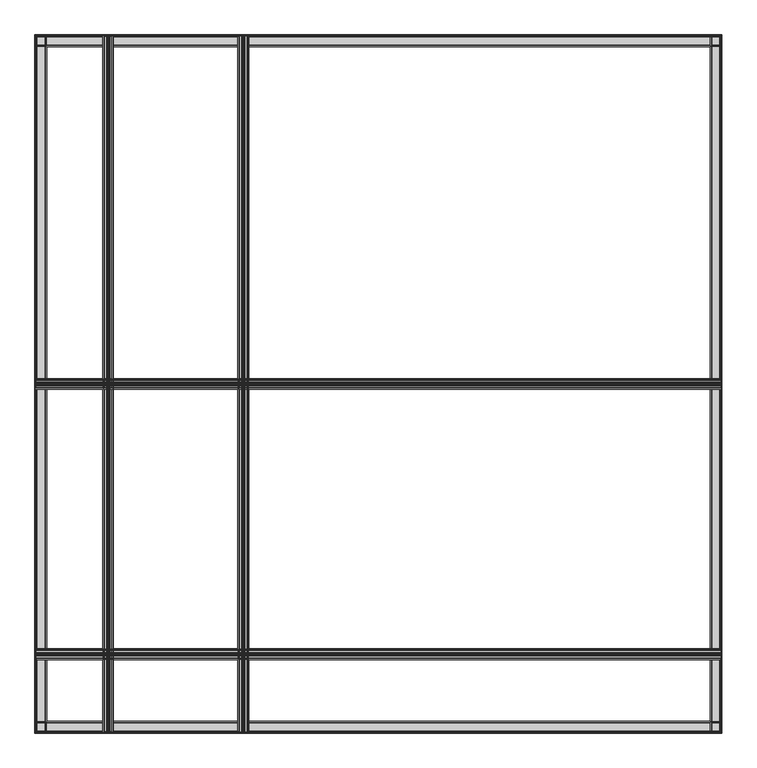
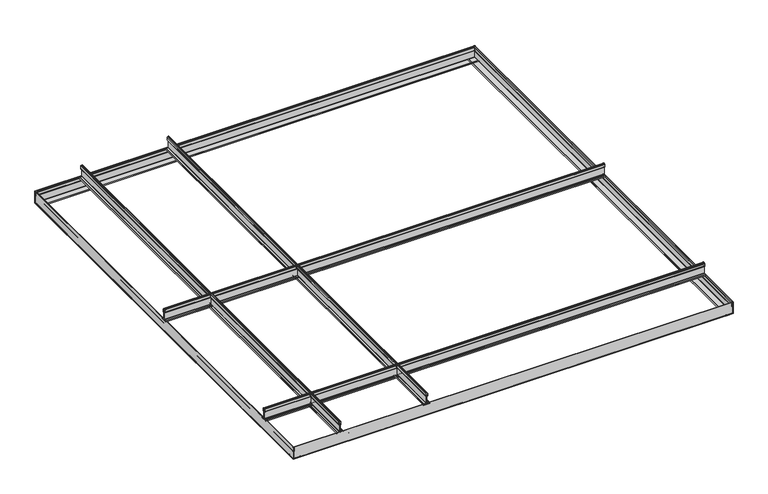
"""IFC4 building model written with IfcOpenShell, lengths in millimetres: proxy geometry, Maxxit_Piramid-Ceiling_rev-01 : Maxxit_Piramid-Ceiling_Duo."""

from ifc_helpers import new_model, si_unit, point, frame, frame_2d, origin, place, context, project, spatial, polyline, circle_curve, trimmed, segment, composite_curve, outline, extrude, source, transform, mapped, element, save


def generic_models_0849f277(model_context):
    return source(origin(), model_context, "Body", "SweptSolid", [
        extrude(outline(composite_curve([segment(polyline([(26.3453115, 470.2521622), (26.0364605, 478.6221882), (27.0486923, 478.6221882), (27.0486923, 470.8587813)]), True, "CONTINUOUS"), segment(trimmed(circle_curve(frame_2d((28.0053766, 470.8587813)), 0.9566843), [point((27.0486923, 470.8587813))], [point((28.0053766, 469.902097))], True, "CARTESIAN"), True, "CONTINUOUS"), segment(polyline([(28.0053766, 469.902097), (53.7729211, 469.902097)]), True, "CONTINUOUS"), segment(trimmed(circle_curve(frame_2d((53.6130577, 470.6289444)), 0.74422), [point((53.7729211, 469.902097))], [point((54.356, 470.5853536))], True, "CARTESIAN"), True, "CONTINUOUS"), segment(trimmed(circle_curve(frame_2d((58.371716, 470.8444703)), 4.0240672), [point((54.356, 470.5853536))], [point((54.4068054, 471.5319295))], False, "CARTESIAN"), True, "CONTINUOUS"), segment(trimmed(circle_curve(frame_2d((55.7865501, 471.174174)), 1.4253717), [point((54.4068054, 471.5319295))], [point((55.7865501, 472.5995457))], False, "CARTESIAN"), True, "CONTINUOUS"), segment(polyline([(55.7865501, 472.5995457), (64.7585942, 472.5995457)]), True, "CONTINUOUS"), segment(trimmed(circle_curve(frame_2d((64.8150812, 470.5494608)), 2.0508629), [point((64.7585942, 472.5995457))], [point((66.2652603, 471.9996399))], False, "CARTESIAN"), True, "CONTINUOUS"), segment(polyline([(66.2652603, 471.9996399), (68.1708325, 470.0940677)]), True, "CONTINUOUS"), segment(trimmed(circle_curve(frame_2d((67.1830148, 469.10625)), 1.3969852), [point((68.1708325, 470.0940677))], [point((68.1708325, 468.1184323))], False, "CARTESIAN"), True, "CONTINUOUS"), segment(polyline([(68.1708325, 468.1184323), (66.2652603, 466.2128601)]), True, "CONTINUOUS"), segment(trimmed(circle_curve(frame_2d((64.8150812, 467.6630392)), 2.0508629), [point((66.2652603, 466.2128601))], [point((64.7585942, 465.6129543))], False, "CARTESIAN"), True, "CONTINUOUS"), segment(polyline([(64.7585942, 465.6129543), (55.7865501, 465.6129543)]), True, "CONTINUOUS"), segment(trimmed(circle_curve(frame_2d((55.7865501, 467.038326)), 1.4253717), [point((55.7865501, 465.6129543))], [point((54.4068054, 466.6805705))], False, "CARTESIAN"), True, "CONTINUOUS"), segment(trimmed(circle_curve(frame_2d((58.371716, 467.3680297)), 4.0240672), [point((54.4068054, 466.6805705))], [point((54.356, 467.6271464))], False, "CARTESIAN"), True, "CONTINUOUS"), segment(trimmed(circle_curve(frame_2d((53.6130577, 467.5835556)), 0.74422), [point((54.356, 467.6271464))], [point((53.7436541, 468.3162274))], True, "CARTESIAN"), True, "CONTINUOUS"), segment(polyline([(53.7436541, 468.3162274), (28.0053766, 468.3162274)]), True, "CONTINUOUS"), segment(trimmed(circle_curve(frame_2d((28.0053766, 467.3595431)), 0.9566843), [point((28.0053766, 468.3162274))], [point((27.0486923, 467.3595431))], True, "CARTESIAN"), True, "CONTINUOUS"), segment(polyline([(27.0486923, 467.3595431), (27.0486923, 458.7632271), (26.0290179, 458.7632271), (26.3453115, 467.9661622)]), True, "CONTINUOUS"), segment(trimmed(circle_curve(frame_2d((27.4883115, 467.9661622)), 1.143), [point((26.3453115, 467.9661622))], [point((27.4883115, 469.1091622))], False, "CARTESIAN"), True, "CONTINUOUS"), segment(trimmed(circle_curve(frame_2d((27.4883115, 470.2521622)), 1.143), [point((27.4883115, 469.1091622))], [point((26.3453115, 470.2521622))], False, "CARTESIAN"), True, "CONTINUOUS")], self_intersect=False), holes=[composite_curve([segment(trimmed(circle_curve(frame_2d((54.058724, 468.0366423)), 1.0922), [point((54.2797221, 469.10625))], [point((55.150924, 468.0366423))], False, "CARTESIAN"), True, "CONTINUOUS"), segment(polyline([(55.150924, 468.0366423), (55.150924, 467.0462215)]), True, "CONTINUOUS"), segment(trimmed(circle_curve(frame_2d((55.7859245, 467.0462215)), 0.6350005), [point((55.150924, 467.0462215))], [point((55.7859245, 466.411221))], True, "CARTESIAN"), True, "CONTINUOUS"), segment(polyline([(55.7859245, 466.411221), (64.7585942, 466.411221)]), True, "CONTINUOUS"), segment(trimmed(circle_curve(frame_2d((64.7240599, 467.9140641)), 1.5032399), [point((64.7585942, 466.411221))], [point((65.7039943, 466.7741261))], True, "CARTESIAN"), True, "CONTINUOUS"), segment(polyline([(65.7039943, 466.7741261), (67.6095665, 468.6796983)]), True, "CONTINUOUS"), segment(trimmed(circle_curve(frame_2d((67.1830148, 469.10625)), 0.6032352), [point((67.6095665, 468.6796983))], [point((67.6095665, 469.5328017))], True, "CARTESIAN"), True, "CONTINUOUS"), segment(polyline([(67.6095665, 469.5328017), (65.7039943, 471.4383739)]), True, "CONTINUOUS"), segment(trimmed(circle_curve(frame_2d((64.7240599, 470.2984359)), 1.5032399), [point((65.7039943, 471.4383739))], [point((64.7585942, 471.801279))], True, "CARTESIAN"), True, "CONTINUOUS"), segment(polyline([(64.7585942, 471.801279), (55.7859245, 471.801279)]), True, "CONTINUOUS"), segment(trimmed(circle_curve(frame_2d((55.7859245, 471.1662785)), 0.6350005), [point((55.7859245, 471.801279))], [point((55.150924, 471.1662785))], True, "CARTESIAN"), True, "CONTINUOUS"), segment(polyline([(55.150924, 471.1662785), (55.150924, 470.1758577)]), True, "CONTINUOUS"), segment(trimmed(circle_curve(frame_2d((54.058724, 470.1758577)), 1.0922), [point((55.150924, 470.1758577))], [point((54.2797221, 469.10625))], False, "CARTESIAN"), True, "CONTINUOUS")], self_intersect=False)]), frame((0.0, -0.79375, 0.0), z_axis=(0.0, 1.0, 0.0), x_axis=(0.0, 0.0, 1.0)), (0.0, 0.0, 1.0), 1574.8),
        extrude(outline(composite_curve([segment(trimmed(circle_curve(frame_2d((26.8823557, 479.5419885)), 1.4823557), [point((25.4, 479.5419885))], [point((28.3175237, 479.1709475))], False, "CARTESIAN"), True, "CONTINUOUS"), segment(polyline([(28.3175237, 479.1709475), (27.887022, 477.6447705), (27.123083, 477.8602613), (27.550773, 479.3764703)]), True, "CONTINUOUS"), segment(trimmed(circle_curve(frame_2d((26.8823557, 479.5419885)), 0.6886057), [point((27.550773, 479.3764703))], [point((26.19375, 479.5419885))], True, "CARTESIAN"), True, "CONTINUOUS"), segment(polyline([(26.19375, 479.5419885), (26.19375, 458.6705115)]), True, "CONTINUOUS"), segment(trimmed(circle_curve(frame_2d((26.8823557, 458.6705115)), 0.6886057), [point((26.19375, 458.6705115))], [point((27.550773, 458.8360297))], True, "CARTESIAN"), True, "CONTINUOUS"), segment(polyline([(27.550773, 458.8360297), (27.123083, 460.3522387), (27.887022, 460.5677295), (28.3175237, 459.0415525)]), True, "CONTINUOUS"), segment(trimmed(circle_curve(frame_2d((26.8823557, 458.6705115)), 1.4823557), [point((28.3175237, 459.0415525))], [point((25.4, 458.6705115))], False, "CARTESIAN"), True, "CONTINUOUS"), segment(polyline([(25.4, 458.6705115), (25.4, 479.5419885)]), True, "CONTINUOUS")], self_intersect=False)), frame((0.0, -0.79375, 0.0), z_axis=(0.0, 1.0, 0.0), x_axis=(0.0, 0.0, 1.0)), (0.0, 0.0, 1.0), 1574.8),
        extrude(outline(composite_curve([segment(trimmed(circle_curve(frame_2d((787.7521622, 27.4883115)), 1.143), [point((787.7521622, 26.3453115))], [point((786.6091622, 27.4883115))], False, "CARTESIAN"), True, "CONTINUOUS"), segment(trimmed(circle_curve(frame_2d((785.4661622, 27.4883115)), 1.143), [point((786.6091622, 27.4883115))], [point((785.4661622, 26.3453115))], False, "CARTESIAN"), True, "CONTINUOUS"), segment(polyline([(785.4661622, 26.3453115), (776.2632271, 26.0290179), (776.2632271, 27.0486923), (784.8595431, 27.0486923)]), True, "CONTINUOUS"), segment(trimmed(circle_curve(frame_2d((784.8595431, 28.0053766)), 0.9566843), [point((784.8595431, 27.0486923))], [point((785.8162274, 28.0053766))], True, "CARTESIAN"), True, "CONTINUOUS"), segment(polyline([(785.8162274, 28.0053766), (785.8162274, 53.7436541)]), True, "CONTINUOUS"), segment(trimmed(circle_curve(frame_2d((785.0835556, 53.6130577)), 0.74422), [point((785.8162274, 53.7436541))], [point((785.1271464, 54.356))], True, "CARTESIAN"), True, "CONTINUOUS"), segment(trimmed(circle_curve(frame_2d((784.8680297, 58.371716)), 4.0240672), [point((785.1271464, 54.356))], [point((784.1805705, 54.4068054))], False, "CARTESIAN"), True, "CONTINUOUS"), segment(trimmed(circle_curve(frame_2d((784.538326, 55.7865501)), 1.4253717), [point((784.1805705, 54.4068054))], [point((783.1129543, 55.7865501))], False, "CARTESIAN"), True, "CONTINUOUS"), segment(polyline([(783.1129543, 55.7865501), (783.1129543, 64.7585942)]), True, "CONTINUOUS"), segment(trimmed(circle_curve(frame_2d((785.1630392, 64.8150812)), 2.0508629), [point((783.1129543, 64.7585942))], [point((783.7128601, 66.2652603))], False, "CARTESIAN"), True, "CONTINUOUS"), segment(polyline([(783.7128601, 66.2652603), (785.6184323, 68.1708325)]), True, "CONTINUOUS"), segment(trimmed(circle_curve(frame_2d((786.60625, 67.1830148)), 1.3969852), [point((785.6184323, 68.1708325))], [point((787.5940677, 68.1708325))], False, "CARTESIAN"), True, "CONTINUOUS"), segment(polyline([(787.5940677, 68.1708325), (789.4996399, 66.2652603)]), True, "CONTINUOUS"), segment(trimmed(circle_curve(frame_2d((788.0494608, 64.8150812)), 2.0508629), [point((789.4996399, 66.2652603))], [point((790.0995457, 64.7585942))], False, "CARTESIAN"), True, "CONTINUOUS"), segment(polyline([(790.0995457, 64.7585942), (790.0995457, 55.7865501)]), True, "CONTINUOUS"), segment(trimmed(circle_curve(frame_2d((788.674174, 55.7865501)), 1.4253717), [point((790.0995457, 55.7865501))], [point((789.0319295, 54.4068054))], False, "CARTESIAN"), True, "CONTINUOUS"), segment(trimmed(circle_curve(frame_2d((788.3444703, 58.371716)), 4.0240672), [point((789.0319295, 54.4068054))], [point((788.0853536, 54.356))], False, "CARTESIAN"), True, "CONTINUOUS"), segment(trimmed(circle_curve(frame_2d((788.1289444, 53.6130577)), 0.74422), [point((788.0853536, 54.356))], [point((787.402097, 53.7729211))], True, "CARTESIAN"), True, "CONTINUOUS"), segment(polyline([(787.402097, 53.7729211), (787.402097, 28.0053766)]), True, "CONTINUOUS"), segment(trimmed(circle_curve(frame_2d((788.3587813, 28.0053766)), 0.9566843), [point((787.402097, 28.0053766))], [point((788.3587813, 27.0486923))], True, "CARTESIAN"), True, "CONTINUOUS"), segment(polyline([(788.3587813, 27.0486923), (796.1221882, 27.0486923), (796.1221882, 26.0364605), (787.7521622, 26.3453115)]), True, "CONTINUOUS")], self_intersect=False), holes=[composite_curve([segment(trimmed(circle_curve(frame_2d((787.6758577, 54.058724)), 1.0922), [point((786.60625, 54.2797221))], [point((787.6758577, 55.150924))], False, "CARTESIAN"), True, "CONTINUOUS"), segment(polyline([(787.6758577, 55.150924), (788.6662785, 55.150924)]), True, "CONTINUOUS"), segment(trimmed(circle_curve(frame_2d((788.6662785, 55.7859245)), 0.6350005), [point((788.6662785, 55.150924))], [point((789.301279, 55.7859245))], True, "CARTESIAN"), True, "CONTINUOUS"), segment(polyline([(789.301279, 55.7859245), (789.301279, 64.7585942)]), True, "CONTINUOUS"), segment(trimmed(circle_curve(frame_2d((787.7984359, 64.7240599)), 1.5032399), [point((789.301279, 64.7585942))], [point((788.9383739, 65.7039943))], True, "CARTESIAN"), True, "CONTINUOUS"), segment(polyline([(788.9383739, 65.7039943), (787.0328017, 67.6095665)]), True, "CONTINUOUS"), segment(trimmed(circle_curve(frame_2d((786.60625, 67.1830148)), 0.6032352), [point((787.0328017, 67.6095665))], [point((786.1796983, 67.6095665))], True, "CARTESIAN"), True, "CONTINUOUS"), segment(polyline([(786.1796983, 67.6095665), (784.2741261, 65.7039943)]), True, "CONTINUOUS"), segment(trimmed(circle_curve(frame_2d((785.4140641, 64.7240599)), 1.5032399), [point((784.2741261, 65.7039943))], [point((783.911221, 64.7585942))], True, "CARTESIAN"), True, "CONTINUOUS"), segment(polyline([(783.911221, 64.7585942), (783.911221, 55.7859245)]), True, "CONTINUOUS"), segment(trimmed(circle_curve(frame_2d((784.5462215, 55.7859245)), 0.6350005), [point((783.911221, 55.7859245))], [point((784.5462215, 55.150924))], True, "CARTESIAN"), True, "CONTINUOUS"), segment(polyline([(784.5462215, 55.150924), (785.5366423, 55.150924)]), True, "CONTINUOUS"), segment(trimmed(circle_curve(frame_2d((785.5366423, 54.058724)), 1.0922), [point((785.5366423, 55.150924))], [point((786.60625, 54.2797221))], False, "CARTESIAN"), True, "CONTINUOUS")], self_intersect=False)]), frame((-0.79375, 0.0, 0.0), z_axis=(1.0, 0.0, 0.0), x_axis=(0.0, 1.0, 0.0)), (0.0, 0.0, 1.0), 1549.4),
        extrude(outline(composite_curve([segment(polyline([(797.0419885, 25.4), (776.1705115, 25.4)]), True, "CONTINUOUS"), segment(trimmed(circle_curve(frame_2d((776.1705115, 26.8823557)), 1.4823557), [point((776.1705115, 25.4))], [point((776.5415525, 28.3175237))], False, "CARTESIAN"), True, "CONTINUOUS"), segment(polyline([(776.5415525, 28.3175237), (778.0677295, 27.887022), (777.8522387, 27.123083), (776.3360297, 27.550773)]), True, "CONTINUOUS"), segment(trimmed(circle_curve(frame_2d((776.1705115, 26.8823557)), 0.6886057), [point((776.3360297, 27.550773))], [point((776.1705115, 26.19375))], True, "CARTESIAN"), True, "CONTINUOUS"), segment(polyline([(776.1705115, 26.19375), (797.0419885, 26.19375)]), True, "CONTINUOUS"), segment(trimmed(circle_curve(frame_2d((797.0419885, 26.8823557)), 0.6886057), [point((797.0419885, 26.19375))], [point((796.8764703, 27.550773))], True, "CARTESIAN"), True, "CONTINUOUS"), segment(polyline([(796.8764703, 27.550773), (795.3602613, 27.123083), (795.1447705, 27.887022), (796.6709475, 28.3175237)]), True, "CONTINUOUS"), segment(trimmed(circle_curve(frame_2d((797.0419885, 26.8823557)), 1.4823557), [point((796.6709475, 28.3175237))], [point((797.0419885, 25.4))], False, "CARTESIAN"), True, "CONTINUOUS")], self_intersect=False)), frame((-0.79375, 0.0, 0.0), z_axis=(1.0, 0.0, 0.0), x_axis=(0.0, 1.0, 0.0)), (0.0, 0.0, 1.0), 1549.4),
        extrude(outline(composite_curve([segment(trimmed(circle_curve(frame_2d((178.1521622, 27.4883115)), 1.143), [point((178.1521622, 26.3453115))], [point((177.0091622, 27.4883115))], False, "CARTESIAN"), True, "CONTINUOUS"), segment(trimmed(circle_curve(frame_2d((175.8661622, 27.4883115)), 1.143), [point((177.0091622, 27.4883115))], [point((175.8661622, 26.3453115))], False, "CARTESIAN"), True, "CONTINUOUS"), segment(polyline([(175.8661622, 26.3453115), (166.6632271, 26.0290179), (166.6632271, 27.0486923), (175.2595431, 27.0486923)]), True, "CONTINUOUS"), segment(trimmed(circle_curve(frame_2d((175.2595431, 28.0053766)), 0.9566843), [point((175.2595431, 27.0486923))], [point((176.2162274, 28.0053766))], True, "CARTESIAN"), True, "CONTINUOUS"), segment(polyline([(176.2162274, 28.0053766), (176.2162274, 53.7436541)]), True, "CONTINUOUS"), segment(trimmed(circle_curve(frame_2d((175.4835556, 53.6130577)), 0.74422), [point((176.2162274, 53.7436541))], [point((175.5271464, 54.356))], True, "CARTESIAN"), True, "CONTINUOUS"), segment(trimmed(circle_curve(frame_2d((175.2680297, 58.371716)), 4.0240672), [point((175.5271464, 54.356))], [point((174.5805705, 54.4068054))], False, "CARTESIAN"), True, "CONTINUOUS"), segment(trimmed(circle_curve(frame_2d((174.938326, 55.7865501)), 1.4253717), [point((174.5805705, 54.4068054))], [point((173.5129543, 55.7865501))], False, "CARTESIAN"), True, "CONTINUOUS"), segment(polyline([(173.5129543, 55.7865501), (173.5129543, 64.7585942)]), True, "CONTINUOUS"), segment(trimmed(circle_curve(frame_2d((175.5630392, 64.8150812)), 2.0508629), [point((173.5129543, 64.7585942))], [point((174.1128601, 66.2652603))], False, "CARTESIAN"), True, "CONTINUOUS"), segment(polyline([(174.1128601, 66.2652603), (176.0184323, 68.1708325)]), True, "CONTINUOUS"), segment(trimmed(circle_curve(frame_2d((177.00625, 67.1830148)), 1.3969852), [point((176.0184323, 68.1708325))], [point((177.9940677, 68.1708325))], False, "CARTESIAN"), True, "CONTINUOUS"), segment(polyline([(177.9940677, 68.1708325), (179.8996399, 66.2652603)]), True, "CONTINUOUS"), segment(trimmed(circle_curve(frame_2d((178.4494608, 64.8150812)), 2.0508629), [point((179.8996399, 66.2652603))], [point((180.4995457, 64.7585942))], False, "CARTESIAN"), True, "CONTINUOUS"), segment(polyline([(180.4995457, 64.7585942), (180.4995457, 55.7865501)]), True, "CONTINUOUS"), segment(trimmed(circle_curve(frame_2d((179.074174, 55.7865501)), 1.4253717), [point((180.4995457, 55.7865501))], [point((179.4319295, 54.4068054))], False, "CARTESIAN"), True, "CONTINUOUS"), segment(trimmed(circle_curve(frame_2d((178.7444703, 58.371716)), 4.0240672), [point((179.4319295, 54.4068054))], [point((178.4853536, 54.356))], False, "CARTESIAN"), True, "CONTINUOUS"), segment(trimmed(circle_curve(frame_2d((178.5289444, 53.6130577)), 0.74422), [point((178.4853536, 54.356))], [point((177.802097, 53.7729211))], True, "CARTESIAN"), True, "CONTINUOUS"), segment(polyline([(177.802097, 53.7729211), (177.802097, 28.0053766)]), True, "CONTINUOUS"), segment(trimmed(circle_curve(frame_2d((178.7587813, 28.0053766)), 0.9566843), [point((177.802097, 28.0053766))], [point((178.7587813, 27.0486923))], True, "CARTESIAN"), True, "CONTINUOUS"), segment(polyline([(178.7587813, 27.0486923), (186.5221882, 27.0486923), (186.5221882, 26.0364605), (178.1521622, 26.3453115)]), True, "CONTINUOUS")], self_intersect=False), holes=[composite_curve([segment(trimmed(circle_curve(frame_2d((178.0758577, 54.058724)), 1.0922), [point((177.00625, 54.2797221))], [point((178.0758577, 55.150924))], False, "CARTESIAN"), True, "CONTINUOUS"), segment(polyline([(178.0758577, 55.150924), (179.0662785, 55.150924)]), True, "CONTINUOUS"), segment(trimmed(circle_curve(frame_2d((179.0662785, 55.7859245)), 0.6350005), [point((179.0662785, 55.150924))], [point((179.701279, 55.7859245))], True, "CARTESIAN"), True, "CONTINUOUS"), segment(polyline([(179.701279, 55.7859245), (179.701279, 64.7585942)]), True, "CONTINUOUS"), segment(trimmed(circle_curve(frame_2d((178.1984359, 64.7240599)), 1.5032399), [point((179.701279, 64.7585942))], [point((179.3383739, 65.7039943))], True, "CARTESIAN"), True, "CONTINUOUS"), segment(polyline([(179.3383739, 65.7039943), (177.4328017, 67.6095665)]), True, "CONTINUOUS"), segment(trimmed(circle_curve(frame_2d((177.00625, 67.1830148)), 0.6032352), [point((177.4328017, 67.6095665))], [point((176.5796983, 67.6095665))], True, "CARTESIAN"), True, "CONTINUOUS"), segment(polyline([(176.5796983, 67.6095665), (174.6741261, 65.7039943)]), True, "CONTINUOUS"), segment(trimmed(circle_curve(frame_2d((175.8140641, 64.7240599)), 1.5032399), [point((174.6741261, 65.7039943))], [point((174.311221, 64.7585942))], True, "CARTESIAN"), True, "CONTINUOUS"), segment(polyline([(174.311221, 64.7585942), (174.311221, 55.7859245)]), True, "CONTINUOUS"), segment(trimmed(circle_curve(frame_2d((174.9462215, 55.7859245)), 0.6350005), [point((174.311221, 55.7859245))], [point((174.9462215, 55.150924))], True, "CARTESIAN"), True, "CONTINUOUS"), segment(polyline([(174.9462215, 55.150924), (175.9366423, 55.150924)]), True, "CONTINUOUS"), segment(trimmed(circle_curve(frame_2d((175.9366423, 54.058724)), 1.0922), [point((175.9366423, 55.150924))], [point((177.00625, 54.2797221))], False, "CARTESIAN"), True, "CONTINUOUS")], self_intersect=False)]), frame((-0.79375, 0.0, 0.0), z_axis=(1.0, 0.0, 0.0), x_axis=(0.0, 1.0, 0.0)), (0.0, 0.0, 1.0), 1549.4),
        extrude(outline(composite_curve([segment(polyline([(187.4419885, 25.4), (166.5705115, 25.4)]), True, "CONTINUOUS"), segment(trimmed(circle_curve(frame_2d((166.5705115, 26.8823557)), 1.4823557), [point((166.5705115, 25.4))], [point((166.9415525, 28.3175237))], False, "CARTESIAN"), True, "CONTINUOUS"), segment(polyline([(166.9415525, 28.3175237), (168.4677295, 27.887022), (168.2522387, 27.123083), (166.7360297, 27.550773)]), True, "CONTINUOUS"), segment(trimmed(circle_curve(frame_2d((166.5705115, 26.8823557)), 0.6886057), [point((166.7360297, 27.550773))], [point((166.5705115, 26.19375))], True, "CARTESIAN"), True, "CONTINUOUS"), segment(polyline([(166.5705115, 26.19375), (187.4419885, 26.19375)]), True, "CONTINUOUS"), segment(trimmed(circle_curve(frame_2d((187.4419885, 26.8823557)), 0.6886057), [point((187.4419885, 26.19375))], [point((187.2764703, 27.550773))], True, "CARTESIAN"), True, "CONTINUOUS"), segment(polyline([(187.2764703, 27.550773), (185.7602613, 27.123083), (185.5447705, 27.887022), (187.0709475, 28.3175237)]), True, "CONTINUOUS"), segment(trimmed(circle_curve(frame_2d((187.4419885, 26.8823557)), 1.4823557), [point((187.0709475, 28.3175237))], [point((187.4419885, 25.4))], False, "CARTESIAN"), True, "CONTINUOUS")], self_intersect=False)), frame((-0.79375, 0.0, 0.0), z_axis=(1.0, 0.0, 0.0), x_axis=(0.0, 1.0, 0.0)), (0.0, 0.0, 1.0), 1549.4),
        extrude(outline(composite_curve([segment(polyline([(-14.9820313, 1548.5762526), (-14.1882813, 1548.5762526), (-14.1882813, 1523.8809145)]), True, "CONTINUOUS"), segment(trimmed(circle_curve(frame_2d((-13.4996755, 1523.8809145)), 0.6886057), [point((-14.1882813, 1523.8809145))], [point((-12.8312583, 1524.0464327))], True, "CARTESIAN"), True, "CONTINUOUS"), segment(polyline([(-12.8312583, 1524.0464327), (-13.2589482, 1525.5626417), (-12.4950092, 1525.7781325), (-12.0645075, 1524.2519555)]), True, "CONTINUOUS"), segment(trimmed(circle_curve(frame_2d((-13.4996755, 1523.8809145)), 1.4823557), [point((-12.0645075, 1524.2519555))], [point((-14.9820313, 1523.8809145))], False, "CARTESIAN"), True, "CONTINUOUS"), segment(polyline([(-14.9820313, 1523.8809145), (-14.9820313, 1548.5762526)]), True, "CONTINUOUS")], self_intersect=False)), frame((0.0, -0.79375, 0.0), z_axis=(0.0, 1.0, 0.0), x_axis=(0.0, 0.0, 1.0)), (0.0, 0.0, 1.0), 1574.8),
        extrude(outline(composite_curve([segment(trimmed(circle_curve(frame_2d((26.9918874, 1547.810403)), 1.3969852), [point((28.1400142, 1548.60625))], [point((27.9797051, 1546.8225853))], False, "CARTESIAN"), True, "CONTINUOUS"), segment(polyline([(27.9797051, 1546.8225853), (26.0741329, 1544.9170131)]), True, "CONTINUOUS"), segment(trimmed(circle_curve(frame_2d((24.6239538, 1546.3671922)), 2.0508629), [point((26.0741329, 1544.9170131))], [point((24.5674668, 1544.3171073))], False, "CARTESIAN"), True, "CONTINUOUS"), segment(polyline([(24.5674668, 1544.3171073), (14.4241684, 1544.3171073)]), True, "CONTINUOUS"), segment(trimmed(circle_curve(frame_2d((14.4241684, 1545.742479)), 1.4253717), [point((14.4241684, 1544.3171073))], [point((13.0444237, 1545.3847235))], False, "CARTESIAN"), True, "CONTINUOUS"), segment(trimmed(circle_curve(frame_2d((17.0093343, 1546.0721827)), 4.0240672), [point((13.0444237, 1545.3847235))], [point((12.9936183, 1546.3312994))], False, "CARTESIAN"), True, "CONTINUOUS"), segment(trimmed(circle_curve(frame_2d((12.250676, 1546.2877086)), 0.74422), [point((12.9936183, 1546.3312994))], [point((12.3812724, 1547.0203804))], True, "CARTESIAN"), True, "CONTINUOUS"), segment(polyline([(12.3812724, 1547.0203804), (-12.3766547, 1547.0203804)]), True, "CONTINUOUS"), segment(trimmed(circle_curve(frame_2d((-12.3766547, 1546.0636961)), 0.9566843), [point((-12.3766547, 1547.0203804))], [point((-13.333339, 1546.0636961))], True, "CARTESIAN"), True, "CONTINUOUS"), segment(polyline([(-13.333339, 1546.0636961), (-13.333339, 1523.9736301), (-14.3530133, 1523.9736301), (-14.0306827, 1547.3459287)]), True, "CONTINUOUS"), segment(trimmed(circle_curve(frame_2d((-12.8937197, 1547.46325)), 1.143), [point((-14.0306827, 1547.3459287))], [point((-12.8937197, 1548.60625))], False, "CARTESIAN"), True, "CONTINUOUS"), segment(polyline([(-12.8937197, 1548.60625), (28.1400142, 1548.60625)]), True, "CONTINUOUS")], self_intersect=False), holes=[composite_curve([segment(trimmed(circle_curve(frame_2d((14.4235428, 1547.1729828)), 0.6350005), [point((14.4235428, 1547.8079833))], [point((13.7885423, 1547.1729828))], True, "CARTESIAN"), True, "CONTINUOUS"), segment(polyline([(13.7885423, 1547.1729828), (13.7885423, 1545.7503744)]), True, "CONTINUOUS"), segment(trimmed(circle_curve(frame_2d((14.4235428, 1545.7503744)), 0.6350005), [point((13.7885423, 1545.7503744))], [point((14.4235428, 1545.115374))], True, "CARTESIAN"), True, "CONTINUOUS"), segment(polyline([(14.4235428, 1545.115374), (24.5674668, 1545.115374)]), True, "CONTINUOUS"), segment(trimmed(circle_curve(frame_2d((24.5329325, 1546.6182171)), 1.5032399), [point((24.5674668, 1545.115374))], [point((25.5128669, 1545.4782791))], True, "CARTESIAN"), True, "CONTINUOUS"), segment(polyline([(25.5128669, 1545.4782791), (27.8425711, 1547.8079833), (14.4235428, 1547.8079833)]), True, "CONTINUOUS")], self_intersect=False)]), frame((0.0, -0.79375, 0.0), z_axis=(0.0, 1.0, 0.0), x_axis=(0.0, 0.0, 1.0)), (0.0, 0.0, 1.0), 1574.8),
        extrude(outline(composite_curve([segment(polyline([(1573.9762526, -14.9820313), (1549.2809145, -14.9820313)]), True, "CONTINUOUS"), segment(trimmed(circle_curve(frame_2d((1549.2809145, -13.4996755)), 1.4823557), [point((1549.2809145, -14.9820313))], [point((1549.6519555, -12.0645075))], False, "CARTESIAN"), True, "CONTINUOUS"), segment(polyline([(1549.6519555, -12.0645075), (1551.1781325, -12.4950092), (1550.9626417, -13.2589482), (1549.4464327, -12.8312583)]), True, "CONTINUOUS"), segment(trimmed(circle_curve(frame_2d((1549.2809145, -13.4996755)), 0.6886057), [point((1549.4464327, -12.8312583))], [point((1549.2809145, -14.1882813))], True, "CARTESIAN"), True, "CONTINUOUS"), segment(polyline([(1549.2809145, -14.1882813), (1573.9762526, -14.1882813), (1573.9762526, -14.9820313)]), True, "CONTINUOUS")], self_intersect=False)), frame((-0.79375, 0.0, 0.0), z_axis=(1.0, 0.0, 0.0), x_axis=(0.0, 1.0, 0.0)), (0.0, 0.0, 1.0), 1549.4),
        extrude(outline(composite_curve([segment(polyline([(1574.00625, 28.1400142), (1574.00625, -12.8937197)]), True, "CONTINUOUS"), segment(trimmed(circle_curve(frame_2d((1572.86325, -12.8937197)), 1.143), [point((1574.00625, -12.8937197))], [point((1572.7459287, -14.0306827))], False, "CARTESIAN"), True, "CONTINUOUS"), segment(polyline([(1572.7459287, -14.0306827), (1549.3736301, -14.3530133), (1549.3736301, -13.333339), (1571.4636961, -13.333339)]), True, "CONTINUOUS"), segment(trimmed(circle_curve(frame_2d((1571.4636961, -12.3766547)), 0.9566843), [point((1571.4636961, -13.333339))], [point((1572.4203804, -12.3766547))], True, "CARTESIAN"), True, "CONTINUOUS"), segment(polyline([(1572.4203804, -12.3766547), (1572.4203804, 12.3812724)]), True, "CONTINUOUS"), segment(trimmed(circle_curve(frame_2d((1571.6877086, 12.250676)), 0.74422), [point((1572.4203804, 12.3812724))], [point((1571.7312994, 12.9936183))], True, "CARTESIAN"), True, "CONTINUOUS"), segment(trimmed(circle_curve(frame_2d((1571.4721827, 17.0093343)), 4.0240672), [point((1571.7312994, 12.9936183))], [point((1570.7847235, 13.0444237))], False, "CARTESIAN"), True, "CONTINUOUS"), segment(trimmed(circle_curve(frame_2d((1571.142479, 14.4241684)), 1.4253717), [point((1570.7847235, 13.0444237))], [point((1569.7171073, 14.4241684))], False, "CARTESIAN"), True, "CONTINUOUS"), segment(polyline([(1569.7171073, 14.4241684), (1569.7171073, 24.5674668)]), True, "CONTINUOUS"), segment(trimmed(circle_curve(frame_2d((1571.7671922, 24.6239538)), 2.0508629), [point((1569.7171073, 24.5674668))], [point((1570.3170131, 26.0741329))], False, "CARTESIAN"), True, "CONTINUOUS"), segment(polyline([(1570.3170131, 26.0741329), (1572.2225853, 27.9797051)]), True, "CONTINUOUS"), segment(trimmed(circle_curve(frame_2d((1573.210403, 26.9918874)), 1.3969852), [point((1572.2225853, 27.9797051))], [point((1574.00625, 28.1400142))], False, "CARTESIAN"), True, "CONTINUOUS")], self_intersect=False), holes=[composite_curve([segment(polyline([(1573.2079833, 14.4235428), (1573.2079833, 27.8425711), (1570.8782791, 25.5128669)]), True, "CONTINUOUS"), segment(trimmed(circle_curve(frame_2d((1572.0182171, 24.5329325)), 1.5032399), [point((1570.8782791, 25.5128669))], [point((1570.515374, 24.5674668))], True, "CARTESIAN"), True, "CONTINUOUS"), segment(polyline([(1570.515374, 24.5674668), (1570.515374, 14.4235428)]), True, "CONTINUOUS"), segment(trimmed(circle_curve(frame_2d((1571.1503744, 14.4235428)), 0.6350005), [point((1570.515374, 14.4235428))], [point((1571.1503744, 13.7885423))], True, "CARTESIAN"), True, "CONTINUOUS"), segment(polyline([(1571.1503744, 13.7885423), (1572.5729828, 13.7885423)]), True, "CONTINUOUS"), segment(trimmed(circle_curve(frame_2d((1572.5729828, 14.4235428)), 0.6350005), [point((1572.5729828, 13.7885423))], [point((1573.2079833, 14.4235428))], True, "CARTESIAN"), True, "CONTINUOUS")], self_intersect=False)]), frame((-0.79375, 0.0, 0.0), z_axis=(1.0, 0.0, 0.0), x_axis=(0.0, 1.0, 0.0)), (0.0, 0.0, 1.0), 1549.4),
        extrude(outline(composite_curve([segment(polyline([(-14.9820313, -0.7637526), (-14.9820313, 23.9315855)]), True, "CONTINUOUS"), segment(trimmed(circle_curve(frame_2d((-13.4996755, 23.9315855)), 1.4823557), [point((-14.9820313, 23.9315855))], [point((-12.0645075, 23.5605445))], False, "CARTESIAN"), True, "CONTINUOUS"), segment(polyline([(-12.0645075, 23.5605445), (-12.4950092, 22.0343675), (-13.2589482, 22.2498583), (-12.8312583, 23.7660673)]), True, "CONTINUOUS"), segment(trimmed(circle_curve(frame_2d((-13.4996755, 23.9315855)), 0.6886057), [point((-12.8312583, 23.7660673))], [point((-14.1882813, 23.9315855))], True, "CARTESIAN"), True, "CONTINUOUS"), segment(polyline([(-14.1882813, 23.9315855), (-14.1882813, -0.7637526), (-14.9820313, -0.7637526)]), True, "CONTINUOUS")], self_intersect=False)), frame((0.0, -0.79375, 0.0), z_axis=(0.0, 1.0, 0.0), x_axis=(0.0, 0.0, 1.0)), (0.0, 0.0, 1.0), 1574.8),
        extrude(outline(composite_curve([segment(polyline([(28.1400142, -0.79375), (-12.8937197, -0.79375)]), True, "CONTINUOUS"), segment(trimmed(circle_curve(frame_2d((-12.8937197, 0.34925)), 1.143), [point((-12.8937197, -0.79375))], [point((-14.0306827, 0.4665713))], False, "CARTESIAN"), True, "CONTINUOUS"), segment(polyline([(-14.0306827, 0.4665713), (-14.3530133, 23.8388699), (-13.333339, 23.8388699), (-13.333339, 1.7488039)]), True, "CONTINUOUS"), segment(trimmed(circle_curve(frame_2d((-12.3766547, 1.7488039)), 0.9566843), [point((-13.333339, 1.7488039))], [point((-12.3766547, 0.7921196))], True, "CARTESIAN"), True, "CONTINUOUS"), segment(polyline([(-12.3766547, 0.7921196), (12.3812724, 0.7921196)]), True, "CONTINUOUS"), segment(trimmed(circle_curve(frame_2d((12.250676, 1.5247914)), 0.74422), [point((12.3812724, 0.7921196))], [point((12.9936183, 1.4812006))], True, "CARTESIAN"), True, "CONTINUOUS"), segment(trimmed(circle_curve(frame_2d((17.0093343, 1.7403173)), 4.0240672), [point((12.9936183, 1.4812006))], [point((13.0444237, 2.4277765))], False, "CARTESIAN"), True, "CONTINUOUS"), segment(trimmed(circle_curve(frame_2d((14.4241684, 2.070021)), 1.4253717), [point((13.0444237, 2.4277765))], [point((14.4241684, 3.4953927))], False, "CARTESIAN"), True, "CONTINUOUS"), segment(polyline([(14.4241684, 3.4953927), (24.5674668, 3.4953927)]), True, "CONTINUOUS"), segment(trimmed(circle_curve(frame_2d((24.6239538, 1.4453078)), 2.0508629), [point((24.5674668, 3.4953927))], [point((26.0741329, 2.8954869))], False, "CARTESIAN"), True, "CONTINUOUS"), segment(polyline([(26.0741329, 2.8954869), (27.9797051, 0.9899147)]), True, "CONTINUOUS"), segment(trimmed(circle_curve(frame_2d((26.9918874, 0.002097)), 1.3969852), [point((27.9797051, 0.9899147))], [point((28.1400142, -0.79375))], False, "CARTESIAN"), True, "CONTINUOUS")], self_intersect=False), holes=[composite_curve([segment(polyline([(14.4235428, 0.0045167), (27.8425711, 0.0045167), (25.5128669, 2.3342209)]), True, "CONTINUOUS"), segment(trimmed(circle_curve(frame_2d((24.5329325, 1.1942829)), 1.5032399), [point((25.5128669, 2.3342209))], [point((24.5674668, 2.697126))], True, "CARTESIAN"), True, "CONTINUOUS"), segment(polyline([(24.5674668, 2.697126), (14.4235428, 2.697126)]), True, "CONTINUOUS"), segment(trimmed(circle_curve(frame_2d((14.4235428, 2.0621256)), 0.6350005), [point((14.4235428, 2.697126))], [point((13.7885423, 2.0621256))], True, "CARTESIAN"), True, "CONTINUOUS"), segment(polyline([(13.7885423, 2.0621256), (13.7885423, 0.6395172)]), True, "CONTINUOUS"), segment(trimmed(circle_curve(frame_2d((14.4235428, 0.6395172)), 0.6350005), [point((13.7885423, 0.6395172))], [point((14.4235428, 0.0045167))], True, "CARTESIAN"), True, "CONTINUOUS")], self_intersect=False)]), frame((0.0, -0.79375, 0.0), z_axis=(0.0, 1.0, 0.0), x_axis=(0.0, 0.0, 1.0)), (0.0, 0.0, 1.0), 1574.8),
        extrude(outline(composite_curve([segment(polyline([(-0.7637526, -14.9820313), (-0.7637526, -14.1882813), (23.9315855, -14.1882813)]), True, "CONTINUOUS"), segment(trimmed(circle_curve(frame_2d((23.9315855, -13.4996755)), 0.6886057), [point((23.9315855, -14.1882813))], [point((23.7660673, -12.8312583))], True, "CARTESIAN"), True, "CONTINUOUS"), segment(polyline([(23.7660673, -12.8312583), (22.2498583, -13.2589482), (22.0343675, -12.4950092), (23.5605445, -12.0645075)]), True, "CONTINUOUS"), segment(trimmed(circle_curve(frame_2d((23.9315855, -13.4996755)), 1.4823557), [point((23.5605445, -12.0645075))], [point((23.9315855, -14.9820313))], False, "CARTESIAN"), True, "CONTINUOUS"), segment(polyline([(23.9315855, -14.9820313), (-0.7637526, -14.9820313)]), True, "CONTINUOUS")], self_intersect=False)), frame((-0.79375, 0.0, 0.0), z_axis=(1.0, 0.0, 0.0), x_axis=(0.0, 1.0, 0.0)), (0.0, 0.0, 1.0), 1549.4),
        extrude(outline(composite_curve([segment(trimmed(circle_curve(frame_2d((0.002097, 26.9918874)), 1.3969852), [point((-0.79375, 28.1400142))], [point((0.9899147, 27.9797051))], False, "CARTESIAN"), True, "CONTINUOUS"), segment(polyline([(0.9899147, 27.9797051), (2.8954869, 26.0741329)]), True, "CONTINUOUS"), segment(trimmed(circle_curve(frame_2d((1.4453078, 24.6239538)), 2.0508629), [point((2.8954869, 26.0741329))], [point((3.4953927, 24.5674668))], False, "CARTESIAN"), True, "CONTINUOUS"), segment(polyline([(3.4953927, 24.5674668), (3.4953927, 14.4241684)]), True, "CONTINUOUS"), segment(trimmed(circle_curve(frame_2d((2.070021, 14.4241684)), 1.4253717), [point((3.4953927, 14.4241684))], [point((2.4277765, 13.0444237))], False, "CARTESIAN"), True, "CONTINUOUS"), segment(trimmed(circle_curve(frame_2d((1.7403173, 17.0093343)), 4.0240672), [point((2.4277765, 13.0444237))], [point((1.4812006, 12.9936183))], False, "CARTESIAN"), True, "CONTINUOUS"), segment(trimmed(circle_curve(frame_2d((1.5247914, 12.250676)), 0.74422), [point((1.4812006, 12.9936183))], [point((0.7921196, 12.3812724))], True, "CARTESIAN"), True, "CONTINUOUS"), segment(polyline([(0.7921196, 12.3812724), (0.7921196, -12.3766547)]), True, "CONTINUOUS"), segment(trimmed(circle_curve(frame_2d((1.7488039, -12.3766547)), 0.9566843), [point((0.7921196, -12.3766547))], [point((1.7488039, -13.333339))], True, "CARTESIAN"), True, "CONTINUOUS"), segment(polyline([(1.7488039, -13.333339), (23.8388699, -13.333339), (23.8388699, -14.3530133), (0.4665713, -14.0306827)]), True, "CONTINUOUS"), segment(trimmed(circle_curve(frame_2d((0.34925, -12.8937197)), 1.143), [point((0.4665713, -14.0306827))], [point((-0.79375, -12.8937197))], False, "CARTESIAN"), True, "CONTINUOUS"), segment(polyline([(-0.79375, -12.8937197), (-0.79375, 28.1400142)]), True, "CONTINUOUS")], self_intersect=False), holes=[composite_curve([segment(trimmed(circle_curve(frame_2d((0.6395172, 14.4235428)), 0.6350005), [point((0.0045167, 14.4235428))], [point((0.6395172, 13.7885423))], True, "CARTESIAN"), True, "CONTINUOUS"), segment(polyline([(0.6395172, 13.7885423), (2.0621256, 13.7885423)]), True, "CONTINUOUS"), segment(trimmed(circle_curve(frame_2d((2.0621256, 14.4235428)), 0.6350005), [point((2.0621256, 13.7885423))], [point((2.697126, 14.4235428))], True, "CARTESIAN"), True, "CONTINUOUS"), segment(polyline([(2.697126, 14.4235428), (2.697126, 24.5674668)]), True, "CONTINUOUS"), segment(trimmed(circle_curve(frame_2d((1.1942829, 24.5329325)), 1.5032399), [point((2.697126, 24.5674668))], [point((2.3342209, 25.5128669))], True, "CARTESIAN"), True, "CONTINUOUS"), segment(polyline([(2.3342209, 25.5128669), (0.0045167, 27.8425711), (0.0045167, 14.4235428)]), True, "CONTINUOUS")], self_intersect=False)]), frame((-0.79375, 0.0, 0.0), z_axis=(1.0, 0.0, 0.0), x_axis=(0.0, 1.0, 0.0)), (0.0, 0.0, 1.0), 1549.4),
        extrude(outline(composite_curve([segment(polyline([(26.3453115, 165.4521622), (26.0364605, 173.8221882), (27.0486923, 173.8221882), (27.0486923, 166.0587813)]), True, "CONTINUOUS"), segment(trimmed(circle_curve(frame_2d((28.0053766, 166.0587813)), 0.9566843), [point((27.0486923, 166.0587813))], [point((28.0053766, 165.102097))], True, "CARTESIAN"), True, "CONTINUOUS"), segment(polyline([(28.0053766, 165.102097), (53.7729211, 165.102097)]), True, "CONTINUOUS"), segment(trimmed(circle_curve(frame_2d((53.6130577, 165.8289444)), 0.74422), [point((53.7729211, 165.102097))], [point((54.356, 165.7853536))], True, "CARTESIAN"), True, "CONTINUOUS"), segment(trimmed(circle_curve(frame_2d((58.371716, 166.0444703)), 4.0240672), [point((54.356, 165.7853536))], [point((54.4068054, 166.7319295))], False, "CARTESIAN"), True, "CONTINUOUS"), segment(trimmed(circle_curve(frame_2d((55.7865501, 166.374174)), 1.4253717), [point((54.4068054, 166.7319295))], [point((55.7865501, 167.7995457))], False, "CARTESIAN"), True, "CONTINUOUS"), segment(polyline([(55.7865501, 167.7995457), (64.7585942, 167.7995457)]), True, "CONTINUOUS"), segment(trimmed(circle_curve(frame_2d((64.8150812, 165.7494608)), 2.0508629), [point((64.7585942, 167.7995457))], [point((66.2652603, 167.1996399))], False, "CARTESIAN"), True, "CONTINUOUS"), segment(polyline([(66.2652603, 167.1996399), (68.1708325, 165.2940677)]), True, "CONTINUOUS"), segment(trimmed(circle_curve(frame_2d((67.1830148, 164.30625)), 1.3969852), [point((68.1708325, 165.2940677))], [point((68.1708325, 163.3184323))], False, "CARTESIAN"), True, "CONTINUOUS"), segment(polyline([(68.1708325, 163.3184323), (66.2652603, 161.4128601)]), True, "CONTINUOUS"), segment(trimmed(circle_curve(frame_2d((64.8150812, 162.8630392)), 2.0508629), [point((66.2652603, 161.4128601))], [point((64.7585942, 160.8129543))], False, "CARTESIAN"), True, "CONTINUOUS"), segment(polyline([(64.7585942, 160.8129543), (55.7865501, 160.8129543)]), True, "CONTINUOUS"), segment(trimmed(circle_curve(frame_2d((55.7865501, 162.238326)), 1.4253717), [point((55.7865501, 160.8129543))], [point((54.4068054, 161.8805705))], False, "CARTESIAN"), True, "CONTINUOUS"), segment(trimmed(circle_curve(frame_2d((58.371716, 162.5680297)), 4.0240672), [point((54.4068054, 161.8805705))], [point((54.356, 162.8271464))], False, "CARTESIAN"), True, "CONTINUOUS"), segment(trimmed(circle_curve(frame_2d((53.6130577, 162.7835556)), 0.74422), [point((54.356, 162.8271464))], [point((53.7436541, 163.5162274))], True, "CARTESIAN"), True, "CONTINUOUS"), segment(polyline([(53.7436541, 163.5162274), (28.0053766, 163.5162274)]), True, "CONTINUOUS"), segment(trimmed(circle_curve(frame_2d((28.0053766, 162.5595431)), 0.9566843), [point((28.0053766, 163.5162274))], [point((27.0486923, 162.5595431))], True, "CARTESIAN"), True, "CONTINUOUS"), segment(polyline([(27.0486923, 162.5595431), (27.0486923, 153.9632271), (26.0290179, 153.9632271), (26.3453115, 163.1661622)]), True, "CONTINUOUS"), segment(trimmed(circle_curve(frame_2d((27.4883115, 163.1661622)), 1.143), [point((26.3453115, 163.1661622))], [point((27.4883115, 164.3091622))], False, "CARTESIAN"), True, "CONTINUOUS"), segment(trimmed(circle_curve(frame_2d((27.4883115, 165.4521622)), 1.143), [point((27.4883115, 164.3091622))], [point((26.3453115, 165.4521622))], False, "CARTESIAN"), True, "CONTINUOUS")], self_intersect=False), holes=[composite_curve([segment(trimmed(circle_curve(frame_2d((54.058724, 163.2366423)), 1.0922), [point((54.2797221, 164.30625))], [point((55.150924, 163.2366423))], False, "CARTESIAN"), True, "CONTINUOUS"), segment(polyline([(55.150924, 163.2366423), (55.150924, 162.2462215)]), True, "CONTINUOUS"), segment(trimmed(circle_curve(frame_2d((55.7859245, 162.2462215)), 0.6350005), [point((55.150924, 162.2462215))], [point((55.7859245, 161.611221))], True, "CARTESIAN"), True, "CONTINUOUS"), segment(polyline([(55.7859245, 161.611221), (64.7585942, 161.611221)]), True, "CONTINUOUS"), segment(trimmed(circle_curve(frame_2d((64.7240599, 163.1140641)), 1.5032399), [point((64.7585942, 161.611221))], [point((65.7039943, 161.9741261))], True, "CARTESIAN"), True, "CONTINUOUS"), segment(polyline([(65.7039943, 161.9741261), (67.6095665, 163.8796983)]), True, "CONTINUOUS"), segment(trimmed(circle_curve(frame_2d((67.1830148, 164.30625)), 0.6032352), [point((67.6095665, 163.8796983))], [point((67.6095665, 164.7328017))], True, "CARTESIAN"), True, "CONTINUOUS"), segment(polyline([(67.6095665, 164.7328017), (65.7039943, 166.6383739)]), True, "CONTINUOUS"), segment(trimmed(circle_curve(frame_2d((64.7240599, 165.4984359)), 1.5032399), [point((65.7039943, 166.6383739))], [point((64.7585942, 167.001279))], True, "CARTESIAN"), True, "CONTINUOUS"), segment(polyline([(64.7585942, 167.001279), (55.7859245, 167.001279)]), True, "CONTINUOUS"), segment(trimmed(circle_curve(frame_2d((55.7859245, 166.3662785)), 0.6350005), [point((55.7859245, 167.001279))], [point((55.150924, 166.3662785))], True, "CARTESIAN"), True, "CONTINUOUS"), segment(polyline([(55.150924, 166.3662785), (55.150924, 165.3758577)]), True, "CONTINUOUS"), segment(trimmed(circle_curve(frame_2d((54.058724, 165.3758577)), 1.0922), [point((55.150924, 165.3758577))], [point((54.2797221, 164.30625))], False, "CARTESIAN"), True, "CONTINUOUS")], self_intersect=False)]), frame((0.0, -0.79375, 0.0), z_axis=(0.0, 1.0, 0.0), x_axis=(0.0, 0.0, 1.0)), (0.0, 0.0, 1.0), 1574.8),
        extrude(outline(composite_curve([segment(trimmed(circle_curve(frame_2d((26.8823557, 174.7419885)), 1.4823557), [point((25.4, 174.7419885))], [point((28.3175237, 174.3709475))], False, "CARTESIAN"), True, "CONTINUOUS"), segment(polyline([(28.3175237, 174.3709475), (27.887022, 172.8447705), (27.123083, 173.0602613), (27.550773, 174.5764703)]), True, "CONTINUOUS"), segment(trimmed(circle_curve(frame_2d((26.8823557, 174.7419885)), 0.6886057), [point((27.550773, 174.5764703))], [point((26.19375, 174.7419885))], True, "CARTESIAN"), True, "CONTINUOUS"), segment(polyline([(26.19375, 174.7419885), (26.19375, 153.8705115)]), True, "CONTINUOUS"), segment(trimmed(circle_curve(frame_2d((26.8823557, 153.8705115)), 0.6886057), [point((26.19375, 153.8705115))], [point((27.550773, 154.0360297))], True, "CARTESIAN"), True, "CONTINUOUS"), segment(polyline([(27.550773, 154.0360297), (27.123083, 155.5522387), (27.887022, 155.7677295), (28.3175237, 154.2415525)]), True, "CONTINUOUS"), segment(trimmed(circle_curve(frame_2d((26.8823557, 153.8705115)), 1.4823557), [point((28.3175237, 154.2415525))], [point((25.4, 153.8705115))], False, "CARTESIAN"), True, "CONTINUOUS"), segment(polyline([(25.4, 153.8705115), (25.4, 174.7419885)]), True, "CONTINUOUS")], self_intersect=False)), frame((0.0, -0.79375, 0.0), z_axis=(0.0, 1.0, 0.0), x_axis=(0.0, 0.0, 1.0)), (0.0, 0.0, 1.0), 1574.8),
    ])


if __name__ == "__main__":
    model = new_model("IFC4")
    model_context = context("Model", 3, world=origin())
    ifc_project = project(units=[si_unit("LENGTHUNIT", "METRE", prefix="MILLI")], contexts=[model_context])
    site = spatial("IfcSite", under=ifc_project)
    building = spatial("IfcBuilding", under=site)
    placement = place(None, origin())
    generic_models_shape = generic_models_0849f277(model_context)
    element("IfcBuildingElementProxy", 1, Name="Maxxit_Piramid-Ceiling_rev-01 : Maxxit_Piramid-Ceiling_Duo", ObjectType="Maxxit_Piramid-Ceiling_rev-01 : Maxxit_Piramid-Ceiling_Duo", at=placement, inside=building, context=model_context, shape_type="MappedRepresentation", body=[
        mapped(generic_models_shape, transform((0.0, 0.0, 0.0), x_axis=(1.0, 0.0, 0.0), y_axis=(0.0, 1.0, 0.0), z_axis=(0.0, 0.0, 1.0))),
    ])
    save(model, "model.ifc")
